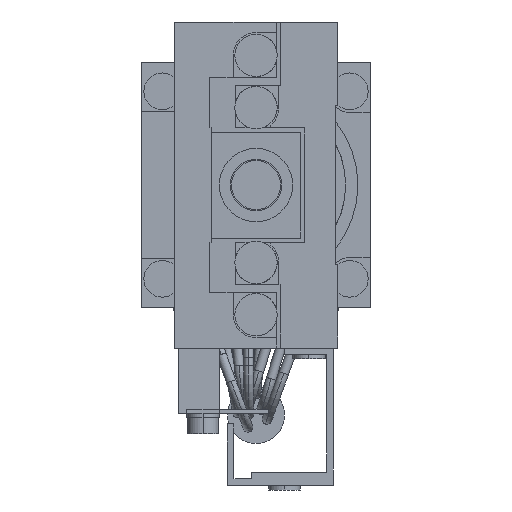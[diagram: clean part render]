
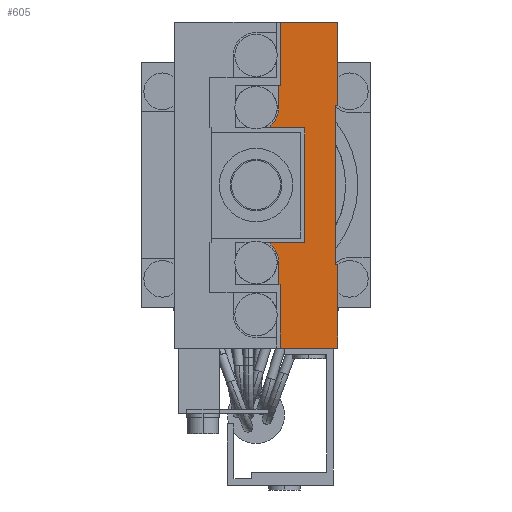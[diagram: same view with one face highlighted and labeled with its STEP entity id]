
A CAD part, left-side view. The second image highlights one B-rep face of the part: STEP entity #605.
In plain terms, the highlighted planar face has unit normal (-1, 0, 0).
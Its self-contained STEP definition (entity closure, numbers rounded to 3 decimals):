
#605=ADVANCED_FACE('',(#1653),#1654,.F.);
#1653=FACE_OUTER_BOUND('',#3168,.T.);
#1654=PLANE('',#3169);
#3168=EDGE_LOOP('',(#6337,#6338,#6339,#6340,#6341,#6342,#6343,#6344,#6345,#6346,#6347,#6348,#6349,#6350,#6351,#6352,#6353,#6354,#6355,#6356));
#3169=AXIS2_PLACEMENT_3D('',#6357,#6358,#6359);
#6337=ORIENTED_EDGE('',*,*,#10555,.T.);
#6338=ORIENTED_EDGE('',*,*,#10564,.T.);
#6339=ORIENTED_EDGE('',*,*,#10566,.T.);
#6340=ORIENTED_EDGE('',*,*,#10578,.F.);
#6341=ORIENTED_EDGE('',*,*,#10569,.F.);
#6342=ORIENTED_EDGE('',*,*,#10602,.F.);
#6343=ORIENTED_EDGE('',*,*,#10483,.F.);
#6344=ORIENTED_EDGE('',*,*,#10613,.F.);
#6345=ORIENTED_EDGE('',*,*,#10461,.F.);
#6346=ORIENTED_EDGE('',*,*,#10582,.F.);
#6347=ORIENTED_EDGE('',*,*,#10606,.F.);
#6348=ORIENTED_EDGE('',*,*,#10599,.F.);
#6349=ORIENTED_EDGE('',*,*,#10592,.F.);
#6350=ORIENTED_EDGE('',*,*,#10525,.F.);
#6351=ORIENTED_EDGE('',*,*,#10604,.T.);
#6352=ORIENTED_EDGE('',*,*,#10614,.T.);
#6353=ORIENTED_EDGE('',*,*,#10615,.T.);
#6354=ORIENTED_EDGE('',*,*,#10553,.F.);
#6355=ORIENTED_EDGE('',*,*,#10471,.F.);
#6356=ORIENTED_EDGE('',*,*,#10534,.F.);
#6357=CARTESIAN_POINT('',(-30.0,0.,0.0));
#6358=DIRECTION('',(1.0,0.0,0.0));
#6359=DIRECTION('',(0.0,1.0,0.0));
#10461=EDGE_CURVE('',#12696,#12697,#12698,.T.);
#10471=EDGE_CURVE('',#12715,#12716,#12717,.T.);
#10483=EDGE_CURVE('',#12735,#12736,#12737,.T.);
#10525=EDGE_CURVE('',#12796,#12798,#12799,.T.);
#10534=EDGE_CURVE('',#12812,#12715,#12814,.T.);
#10553=EDGE_CURVE('',#12716,#12830,#12841,.T.);
#10555=EDGE_CURVE('',#12812,#12843,#12844,.T.);
#10564=EDGE_CURVE('',#12843,#12857,#12858,.T.);
#10566=EDGE_CURVE('',#12857,#12860,#12861,.T.);
#10569=EDGE_CURVE('',#12864,#12865,#12866,.T.);
#10578=EDGE_CURVE('',#12865,#12860,#12880,.T.);
#10582=EDGE_CURVE('',#12884,#12696,#12885,.T.);
#10592=EDGE_CURVE('',#12798,#12896,#12897,.T.);
#10599=EDGE_CURVE('',#12896,#12907,#12908,.T.);
#10602=EDGE_CURVE('',#12736,#12864,#12912,.T.);
#10604=EDGE_CURVE('',#12796,#12914,#12915,.T.);
#10606=EDGE_CURVE('',#12907,#12884,#12917,.T.);
#10613=EDGE_CURVE('',#12697,#12735,#12924,.T.);
#10614=EDGE_CURVE('',#12914,#12925,#12926,.T.);
#10615=EDGE_CURVE('',#12925,#12830,#12927,.T.);
#12696=VERTEX_POINT('',#16074);
#12697=VERTEX_POINT('',#16075);
#12698=LINE('',#16076,#16077);
#12715=VERTEX_POINT('',#16099);
#12716=VERTEX_POINT('',#16100);
#12717=LINE('',#16101,#16102);
#12735=VERTEX_POINT('',#16125);
#12736=VERTEX_POINT('',#16126);
#12737=LINE('',#16127,#16128);
#12796=VERTEX_POINT('',#16205);
#12798=VERTEX_POINT('',#16208);
#12799=LINE('',#16209,#16210);
#12812=VERTEX_POINT('',#16229);
#12814=LINE('',#16232,#16233);
#12830=VERTEX_POINT('',#16257);
#12841=LINE('',#16276,#16277);
#12843=VERTEX_POINT('',#16279);
#12844=LINE('',#16280,#16281);
#12857=VERTEX_POINT('',#16299);
#12858=CIRCLE('',#16300,2.8);
#12860=VERTEX_POINT('',#16303);
#12861=LINE('',#16304,#16305);
#12864=VERTEX_POINT('',#16309);
#12865=VERTEX_POINT('',#16310);
#12866=LINE('',#16311,#16312);
#12880=LINE('',#16333,#16334);
#12884=VERTEX_POINT('',#16339);
#12885=LINE('',#16340,#16341);
#12896=VERTEX_POINT('',#16356);
#12897=LINE('',#16357,#16358);
#12907=VERTEX_POINT('',#16372);
#12908=LINE('',#16373,#16374);
#12912=LINE('',#16380,#16381);
#12914=VERTEX_POINT('',#16384);
#12915=LINE('',#16385,#16386);
#12917=LINE('',#16389,#16390);
#12924=LINE('',#16403,#16404);
#12925=VERTEX_POINT('',#16405);
#12926=CIRCLE('',#16406,2.8);
#12927=LINE('',#16407,#16408);
#16074=CARTESIAN_POINT('',(-30.0,0.3,9.7));
#16075=CARTESIAN_POINT('',(-30.0,0.3,-9.7));
#16076=CARTESIAN_POINT('',(-30.0,0.3,9.7));
#16077=VECTOR('',#20158,1000.0);
#16099=CARTESIAN_POINT('',(-30.0,4.0,-7.0));
#16100=CARTESIAN_POINT('',(-30.0,4.0,7.0));
#16101=CARTESIAN_POINT('',(-30.0,4.0,-7.0));
#16102=VECTOR('',#20176,1000.0);
#16125=CARTESIAN_POINT('',(-30.0,0.,-9.7));
#16126=CARTESIAN_POINT('',(-30.0,0.,-20.0));
#16127=CARTESIAN_POINT('',(-30.0,0.,-9.7));
#16128=VECTOR('',#20200,1000.0);
#16205=CARTESIAN_POINT('',(-30.0,7.2,12.2));
#16208=CARTESIAN_POINT('',(-30.0,7.0,12.2));
#16209=CARTESIAN_POINT('',(-30.0,12.5,12.2));
#16210=VECTOR('',#20286,1000.0);
#16229=CARTESIAN_POINT('',(-30.0,8.2,-7.0));
#16232=CARTESIAN_POINT('',(-30.0,12.5,-7.0));
#16233=VECTOR('',#20297,1000.0);
#16257=CARTESIAN_POINT('',(-30.0,8.2,7.0));
#16276=CARTESIAN_POINT('',(-30.0,4.0,7.0));
#16277=VECTOR('',#20320,1000.0);
#16279=CARTESIAN_POINT('',(-30.0,8.2,-7.355));
#16280=CARTESIAN_POINT('',(-30.0,8.2,-7.0));
#16281=VECTOR('',#20324,1000.0);
#16299=CARTESIAN_POINT('',(-30.0,7.2,-9.5));
#16300=AXIS2_PLACEMENT_3D('',#20339,#20340,#20341);
#16303=CARTESIAN_POINT('',(-30.0,7.2,-12.2));
#16304=CARTESIAN_POINT('',(-30.0,7.2,-9.5));
#16305=VECTOR('',#20343,1000.0);
#16309=CARTESIAN_POINT('',(-30.0,7.0,-20.0));
#16310=CARTESIAN_POINT('',(-30.0,7.0,-12.2));
#16311=CARTESIAN_POINT('',(-30.0,7.0,-20.0));
#16312=VECTOR('',#20348,1000.0);
#16333=CARTESIAN_POINT('',(-30.0,7.0,-12.2));
#16334=VECTOR('',#20359,1000.0);
#16339=CARTESIAN_POINT('',(-30.0,0.,9.7));
#16340=CARTESIAN_POINT('',(-30.0,0.,9.7));
#16341=VECTOR('',#20367,1000.0);
#16356=CARTESIAN_POINT('',(-30.0,7.0,20.0));
#16357=CARTESIAN_POINT('',(-30.0,7.0,12.2));
#16358=VECTOR('',#20387,1000.0);
#16372=CARTESIAN_POINT('',(-30.0,0.,20.0));
#16373=CARTESIAN_POINT('',(-30.0,7.0,20.0));
#16374=VECTOR('',#20398,1000.0);
#16380=CARTESIAN_POINT('',(-30.0,0.,-20.0));
#16381=VECTOR('',#20401,1000.0);
#16384=CARTESIAN_POINT('',(-30.0,7.2,9.5));
#16385=CARTESIAN_POINT('',(-30.0,7.2,12.2));
#16386=VECTOR('',#20403,1000.0);
#16389=CARTESIAN_POINT('',(-30.0,0.,20.0));
#16390=VECTOR('',#20405,1000.0);
#16403=CARTESIAN_POINT('',(-30.0,0.3,-9.7));
#16404=VECTOR('',#20412,1000.0);
#16405=CARTESIAN_POINT('',(-30.0,8.2,7.355));
#16406=AXIS2_PLACEMENT_3D('',#20413,#20414,#20415);
#16407=CARTESIAN_POINT('',(-30.0,8.2,7.355));
#16408=VECTOR('',#20416,1000.0);
#20158=DIRECTION('',(0.0,0.0,-1.0));
#20176=DIRECTION('',(0.0,0.0,1.0));
#20200=DIRECTION('',(0.0,0.0,-1.0));
#20286=DIRECTION('',(0.0,-1.0,0.));
#20297=DIRECTION('',(0.0,-1.0,0.0));
#20320=DIRECTION('',(0.0,1.0,0.0));
#20324=DIRECTION('',(0.0,0.0,-1.0));
#20339=CARTESIAN_POINT('',(-30.0,10.0,-9.5));
#20340=DIRECTION('',(1.0,0.0,0.0));
#20341=DIRECTION('',(0.0,0.0,-1.0));
#20343=DIRECTION('',(0.0,0.0,-1.0));
#20348=DIRECTION('',(0.0,0.,1.0));
#20359=DIRECTION('',(0.0,1.0,0.0));
#20367=DIRECTION('',(0.0,1.0,0.0));
#20387=DIRECTION('',(0.0,0.,1.0));
#20398=DIRECTION('',(0.0,-1.0,0.0));
#20401=DIRECTION('',(0.0,1.0,0.0));
#20403=DIRECTION('',(0.0,0.0,-1.0));
#20405=DIRECTION('',(0.0,0.0,-1.0));
#20412=DIRECTION('',(0.0,-1.0,0.0));
#20413=CARTESIAN_POINT('',(-30.0,10.0,9.5));
#20414=DIRECTION('',(1.0,0.0,0.0));
#20415=DIRECTION('',(0.0,0.0,-1.0));
#20416=DIRECTION('',(0.0,0.0,-1.0));
